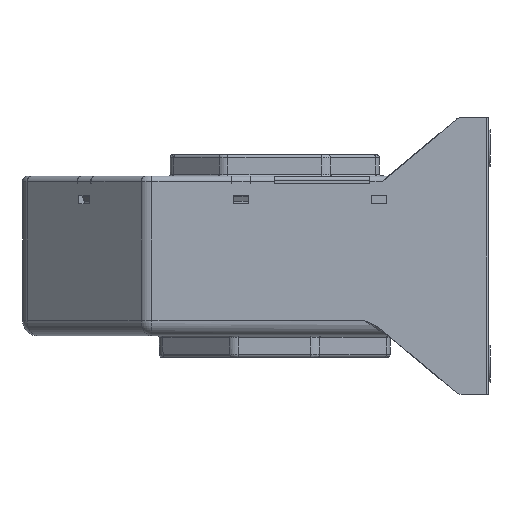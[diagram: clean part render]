
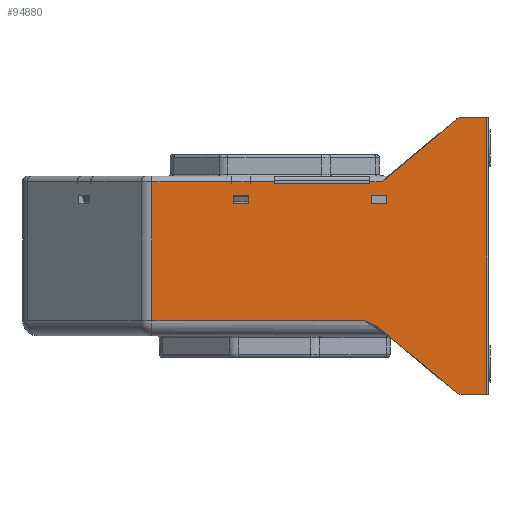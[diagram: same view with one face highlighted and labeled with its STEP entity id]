
A CAD part, left-side view. The second image highlights one B-rep face of the part: STEP entity #94880.
In plain terms, the highlighted planar face has unit normal (-1, 0, 0).
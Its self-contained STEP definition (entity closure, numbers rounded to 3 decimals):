
#13230=CARTESIAN_POINT('',(-75.,-69.,68.));
#13240=VERTEX_POINT('',#13230);
#13270=CARTESIAN_POINT('',(-75.,0.,68.));
#13280=DIRECTION('',(0.,1.,-0.));
#13290=VECTOR('',#13280,1.);
#13300=LINE('',#13270,#13290);
#13310=CARTESIAN_POINT('',(-75.,-60.61,68.));
#13320=VERTEX_POINT('',#13310);
#13330=EDGE_CURVE('',#13240,#13320,#13300,.T.);
#16820=CARTESIAN_POINT('',(-75.,-30.95,46.5));
#16830=VERTEX_POINT('',#16820);
#16860=CARTESIAN_POINT('',(-75.,0.,46.5));
#16870=DIRECTION('',(0.,1.,-0.));
#16880=VECTOR('',#16870,1.);
#16890=LINE('',#16860,#16880);
#16900=CARTESIAN_POINT('',(-75.,0.,46.5));
#16910=VERTEX_POINT('',#16900);
#16920=EDGE_CURVE('',#16830,#16910,#16890,.T.);
#32930=CARTESIAN_POINT('',(-75.,-36.5,0.));
#32940=DIRECTION('',(0.,0.,1.));
#32950=VECTOR('',#32940,1.);
#32960=LINE('',#32930,#32950);
#32970=CARTESIAN_POINT('',(-75.,-36.5,39.95));
#32980=VERTEX_POINT('',#32970);
#32990=CARTESIAN_POINT('',(-75.,-36.5,42.6));
#33000=VERTEX_POINT('',#32990);
#33010=EDGE_CURVE('',#32980,#33000,#32960,.T.);
#33370=CARTESIAN_POINT('',(-75.,8.5,39.95));
#33380=VERTEX_POINT('',#33370);
#33430=CARTESIAN_POINT('',(-75.,0.,39.95));
#33440=DIRECTION('',(0.,1.,-0.));
#33450=VECTOR('',#33440,1.);
#33460=LINE('',#33430,#33450);
#33470=CARTESIAN_POINT('',(-75.,13.5,39.95));
#33480=VERTEX_POINT('',#33470);
#33490=EDGE_CURVE('',#33380,#33480,#33460,.T.);
#33730=CARTESIAN_POINT('',(-75.,0.,42.6));
#33740=DIRECTION('',(0.,1.,0.));
#33750=VECTOR('',#33740,1.);
#33760=LINE('',#33730,#33750);
#33770=CARTESIAN_POINT('',(-75.,-31.5,42.6));
#33780=VERTEX_POINT('',#33770);
#33790=EDGE_CURVE('',#33000,#33780,#33760,.T.);
#38390=CARTESIAN_POINT('',(-75.,8.5,0.));
#38400=DIRECTION('',(0.,0.,1.));
#38410=VECTOR('',#38400,1.);
#38420=LINE('',#38390,#38410);
#38430=CARTESIAN_POINT('',(-75.,8.5,42.6));
#38440=VERTEX_POINT('',#38430);
#38450=EDGE_CURVE('',#33380,#38440,#38420,.T.);
#72630=CARTESIAN_POINT('',(-75.,-31.5,39.95));
#72640=VERTEX_POINT('',#72630);
#72670=CARTESIAN_POINT('',(-75.,-31.5,0.));
#72680=DIRECTION('',(-0.,0.,-1.));
#72690=VECTOR('',#72680,1.);
#72700=LINE('',#72670,#72690);
#72710=EDGE_CURVE('',#33780,#72640,#72700,.T.);
#74130=CARTESIAN_POINT('',(-75.,0.,39.95));
#74140=DIRECTION('',(0.,1.,-0.));
#74150=VECTOR('',#74140,1.);
#74160=LINE('',#74130,#74150);
#74170=EDGE_CURVE('',#32980,#72640,#74160,.T.);
#88650=CARTESIAN_POINT('',(-75.,7.85,46.5));
#88660=VERTEX_POINT('',#88650);
#88690=CARTESIAN_POINT('',(-75.,0.,46.5));
#88700=DIRECTION('',(0.,1.,-0.));
#88710=VECTOR('',#88700,1.);
#88720=LINE('',#88690,#88710);
#88730=CARTESIAN_POINT('',(-75.,7.95,46.5));
#88740=VERTEX_POINT('',#88730);
#88750=EDGE_CURVE('',#88660,#88740,#88720,.T.);
#88880=CARTESIAN_POINT('',(-75.,14.05,46.5));
#88890=VERTEX_POINT('',#88880);
#88920=CARTESIAN_POINT('',(-75.,0.,46.5));
#88930=DIRECTION('',(0.,1.,-0.));
#88940=VECTOR('',#88930,1.);
#88950=LINE('',#88920,#88940);
#88960=CARTESIAN_POINT('',(-75.,14.15,46.5));
#88970=VERTEX_POINT('',#88960);
#88980=EDGE_CURVE('',#88890,#88970,#88950,.T.);
#92980=CARTESIAN_POINT('',(-75.,-71.724,70.251));
#92990=DIRECTION('',(-1.,0.,0.));
#93000=DIRECTION('',(0.,1.,0.));
#93010=AXIS2_PLACEMENT_3D('',#92980,#92990,#93000);
#93020=PLANE('',#93010);
#93030=ORIENTED_EDGE('',*,*,#16920,.T.);
#93040=CARTESIAN_POINT('',(-75.,-30.95,0.));
#93050=DIRECTION('',(0.,0.,-1.));
#93060=VECTOR('',#93050,1.);
#93070=LINE('',#93040,#93060);
#93080=CARTESIAN_POINT('',(-75.,-30.95,47.2));
#93090=VERTEX_POINT('',#93080);
#93100=EDGE_CURVE('',#93090,#16830,#93070,.T.);
#93110=ORIENTED_EDGE('',*,*,#93100,.T.);
#93120=CARTESIAN_POINT('',(-75.,-30.792,47.2));
#93130=DIRECTION('',(0.,-1.,0.));
#93140=VECTOR('',#93130,1.);
#93150=LINE('',#93120,#93140);
#93160=CARTESIAN_POINT('',(-75.,-34.904,47.2));
#93170=VERTEX_POINT('',#93160);
#93180=EDGE_CURVE('',#93090,#93170,#93150,.T.);
#93190=ORIENTED_EDGE('',*,*,#93180,.F.);
#93200=CARTESIAN_POINT('',(-75.,0.,17.921));
#93210=DIRECTION('',(-0.,-0.766,0.643));
#93220=VECTOR('',#93210,1.);
#93230=LINE('',#93200,#93220);
#93240=CARTESIAN_POINT('',(-75.,-59.003,67.415));
#93250=VERTEX_POINT('',#93240);
#93260=EDGE_CURVE('',#93170,#93250,#93230,.T.);
#93270=ORIENTED_EDGE('',*,*,#93260,.F.);
#93280=CARTESIAN_POINT('',(-75.,-60.61,65.5));
#93290=DIRECTION('',(1.,0.,0.));
#93300=DIRECTION('',(0.,-1.,0.));
#93310=AXIS2_PLACEMENT_3D('',#93280,#93290,#93300);
#93320=CIRCLE('',#93310,2.5);
#93330=EDGE_CURVE('',#93250,#13320,#93320,.T.);
#93340=ORIENTED_EDGE('',*,*,#93330,.F.);
#93350=ORIENTED_EDGE('',*,*,#13330,.T.);
#93360=CARTESIAN_POINT('',(-75.,-69.,-22.5));
#93370=DIRECTION('',(0.,0.,1.));
#93380=VECTOR('',#93370,1.);
#93390=LINE('',#93360,#93380);
#93400=CARTESIAN_POINT('',(-75.,-69.,-22.));
#93410=VERTEX_POINT('',#93400);
#93420=EDGE_CURVE('',#93410,#13240,#93390,.T.);
#93430=ORIENTED_EDGE('',*,*,#93420,.T.);
#93440=CARTESIAN_POINT('',(-75.,0.,-22.));
#93450=DIRECTION('',(-0.,1.,0.));
#93460=VECTOR('',#93450,1.);
#93470=LINE('',#93440,#93460);
#93480=CARTESIAN_POINT('',(-75.,-60.61,-22.));
#93490=VERTEX_POINT('',#93480);
#93500=EDGE_CURVE('',#93410,#93490,#93470,.T.);
#93510=ORIENTED_EDGE('',*,*,#93500,.F.);
#93520=CARTESIAN_POINT('',(-75.,-60.61,-19.5));
#93530=DIRECTION('',(1.,0.,0.));
#93540=DIRECTION('',(0.,-1.,0.));
#93550=AXIS2_PLACEMENT_3D('',#93520,#93530,#93540);
#93560=CIRCLE('',#93550,2.5);
#93570=CARTESIAN_POINT('',(-75.,-59.003,-21.415));
#93580=VERTEX_POINT('',#93570);
#93590=EDGE_CURVE('',#93490,#93580,#93560,.T.);
#93600=ORIENTED_EDGE('',*,*,#93590,.F.);
#93610=CARTESIAN_POINT('',(-75.,0.,28.094));
#93620=DIRECTION('',(-0.,0.766,0.643));
#93630=VECTOR('',#93620,1.);
#93640=LINE('',#93610,#93630);
#93650=CARTESIAN_POINT('',(-75.,-34.371,-0.747));
#93660=VERTEX_POINT('',#93650);
#93670=EDGE_CURVE('',#93580,#93660,#93640,.T.);
#93680=ORIENTED_EDGE('',*,*,#93670,.F.);
#93690=CARTESIAN_POINT('',(-75.,-29.234,
1.999));
#93700=CARTESIAN_POINT('',(-75.,-29.289,
1.974));
#93710=CARTESIAN_POINT('',(-75.,-29.401,
1.926));
#93720=CARTESIAN_POINT('',(-75.,-29.624,
1.828));
#93730=CARTESIAN_POINT('',(-75.,-30.015,
1.658));
#93740=CARTESIAN_POINT('',(-75.,-30.794,
1.312));
#93750=CARTESIAN_POINT('',(-75.,-31.677,
0.902));
#93760=CARTESIAN_POINT('',(-75.,-32.543,
0.456));
#93770=CARTESIAN_POINT('',(-75.,-33.179,0.096));
#93780=CARTESIAN_POINT('',(-75.,-33.795,
-0.297));
#93790=CARTESIAN_POINT('',(-75.,-34.185,
-0.59));
#93800=CARTESIAN_POINT('',(-75.,-34.371,-0.747));
#93810=B_SPLINE_CURVE_WITH_KNOTS('',3,(#93690,#93700,#93710,#93720,
#93730,#93740,#93750,#93760,#93770,#93780,#93790,#93800),.UNSPECIFIED.,
.F.,.F.,(4,1,1,1,1,1,1,1,1,4),(0.,0.031,0.063,
0.125,0.25,0.5,0.625,
0.75,0.875,1.),.UNSPECIFIED.);
#93820=CARTESIAN_POINT('',(-75.,-29.234,1.999));
#93830=VERTEX_POINT('',#93820);
#93840=EDGE_CURVE('',#93830,#93660,#93810,.T.);
#93850=ORIENTED_EDGE('',*,*,#93840,.T.);
#93860=CARTESIAN_POINT('',(-75.,40.429,1.999));
#93870=DIRECTION('',(0.,-1.,0.));
#93880=VECTOR('',#93870,1.);
#93890=LINE('',#93860,#93880);
#93900=CARTESIAN_POINT('',(-75.,39.929,1.999));
#93910=VERTEX_POINT('',#93900);
#93920=EDGE_CURVE('',#93910,#93830,#93890,.T.);
#93930=ORIENTED_EDGE('',*,*,#93920,.T.);
#93940=CARTESIAN_POINT('',(-75.,39.929,1.499));
#93950=DIRECTION('',(0.,0.,1.));
#93960=VECTOR('',#93950,1.);
#93970=LINE('',#93940,#93960);
#93980=CARTESIAN_POINT('',(-75.,39.929,47.2));
#93990=VERTEX_POINT('',#93980);
#94000=EDGE_CURVE('',#93910,#93990,#93970,.T.);
#94010=ORIENTED_EDGE('',*,*,#94000,.F.);
#94020=CARTESIAN_POINT('',(-75.,40.429,47.2));
#94030=DIRECTION('',(0.,-1.,0.));
#94040=VECTOR('',#94030,1.);
#94050=LINE('',#94020,#94040);
#94060=CARTESIAN_POINT('',(-75.,14.15,47.2));
#94070=VERTEX_POINT('',#94060);
#94080=EDGE_CURVE('',#93990,#94070,#94050,.T.);
#94090=ORIENTED_EDGE('',*,*,#94080,.F.);
#94100=CARTESIAN_POINT('',(-75.,14.15,0.));
#94110=DIRECTION('',(-0.,-0.,-1.));
#94120=VECTOR('',#94110,1.);
#94130=LINE('',#94100,#94120);
#94140=EDGE_CURVE('',#94070,#88970,#94130,.T.);
#94150=ORIENTED_EDGE('',*,*,#94140,.F.);
#94160=ORIENTED_EDGE('',*,*,#88980,.T.);
#94170=CARTESIAN_POINT('',(-75.,14.05,0.));
#94180=DIRECTION('',(0.,0.,-1.));
#94190=VECTOR('',#94180,1.);
#94200=LINE('',#94170,#94190);
#94210=CARTESIAN_POINT('',(-75.,14.05,47.2));
#94220=VERTEX_POINT('',#94210);
#94230=EDGE_CURVE('',#94220,#88890,#94200,.T.);
#94240=ORIENTED_EDGE('',*,*,#94230,.T.);
#94250=CARTESIAN_POINT('',(-75.,7.797,47.2));
#94260=DIRECTION('',(0.,1.,0.));
#94270=VECTOR('',#94260,1.);
#94280=LINE('',#94250,#94270);
#94290=CARTESIAN_POINT('',(-75.,7.95,47.2));
#94300=VERTEX_POINT('',#94290);
#94310=EDGE_CURVE('',#94300,#94220,#94280,.T.);
#94320=ORIENTED_EDGE('',*,*,#94310,.T.);
#94330=CARTESIAN_POINT('',(-75.,7.95,0.));
#94340=DIRECTION('',(0.,0.,1.));
#94350=VECTOR('',#94340,1.);
#94360=LINE('',#94330,#94350);
#94370=EDGE_CURVE('',#88740,#94300,#94360,.T.);
#94380=ORIENTED_EDGE('',*,*,#94370,.T.);
#94390=ORIENTED_EDGE('',*,*,#88750,.T.);
#94400=CARTESIAN_POINT('',(-75.,7.85,0.));
#94410=DIRECTION('',(-0.,-0.,1.));
#94420=VECTOR('',#94410,1.);
#94430=LINE('',#94400,#94420);
#94440=CARTESIAN_POINT('',(-75.,7.85,47.2));
#94450=VERTEX_POINT('',#94440);
#94460=EDGE_CURVE('',#88660,#94450,#94430,.T.);
#94470=ORIENTED_EDGE('',*,*,#94460,.F.);
#94480=CARTESIAN_POINT('',(-75.,8.047,47.2));
#94490=DIRECTION('',(0.,-1.,0.));
#94500=VECTOR('',#94490,1.);
#94510=LINE('',#94480,#94500);
#94520=CARTESIAN_POINT('',(-75.,0.,47.2));
#94530=VERTEX_POINT('',#94520);
#94540=EDGE_CURVE('',#94450,#94530,#94510,.T.);
#94550=ORIENTED_EDGE('',*,*,#94540,.F.);
#94560=CARTESIAN_POINT('',(-75.,-0.,0.));
#94570=DIRECTION('',(0.,0.,1.));
#94580=VECTOR('',#94570,1.);
#94590=LINE('',#94560,#94580);
#94600=EDGE_CURVE('',#16910,#94530,#94590,.T.);
#94610=ORIENTED_EDGE('',*,*,#94600,.T.);
#94620=EDGE_LOOP('',(#94610,#94550,#94470,#94390,#94380,#94320,#94240,
#94160,#94150,#94090,#94010,#93930,#93850,#93680,#93600,#93510,#93430,
#93350,#93340,#93270,#93190,#93110,#93030));
#94630=FACE_OUTER_BOUND('',#94620,.T.);
#94640=ORIENTED_EDGE('',*,*,#72710,.F.);
#94650=ORIENTED_EDGE('',*,*,#74170,.T.);
#94660=ORIENTED_EDGE('',*,*,#33010,.F.);
#94670=ORIENTED_EDGE('',*,*,#33790,.F.);
#94680=EDGE_LOOP('',(#94670,#94660,#94650,#94640));
#94690=FACE_BOUND('',#94680,.T.);
#94700=CARTESIAN_POINT('',(-75.,0.,42.6));
#94710=DIRECTION('',(-0.,1.,0.));
#94720=VECTOR('',#94710,1.);
#94730=LINE('',#94700,#94720);
#94740=CARTESIAN_POINT('',(-75.,13.5,42.6));
#94750=VERTEX_POINT('',#94740);
#94760=EDGE_CURVE('',#38440,#94750,#94730,.T.);
#94770=ORIENTED_EDGE('',*,*,#94760,.F.);
#94780=CARTESIAN_POINT('',(-75.,13.5,0.));
#94790=DIRECTION('',(-0.,-0.,-1.));
#94800=VECTOR('',#94790,1.);
#94810=LINE('',#94780,#94800);
#94820=EDGE_CURVE('',#94750,#33480,#94810,.T.);
#94830=ORIENTED_EDGE('',*,*,#94820,.F.);
#94840=ORIENTED_EDGE('',*,*,#33490,.T.);
#94850=ORIENTED_EDGE('',*,*,#38450,.F.);
#94860=EDGE_LOOP('',(#94850,#94840,#94830,#94770));
#94870=FACE_BOUND('',#94860,.T.);
#94880=ADVANCED_FACE('',(#94630,#94690,#94870),#93020,.T.);
